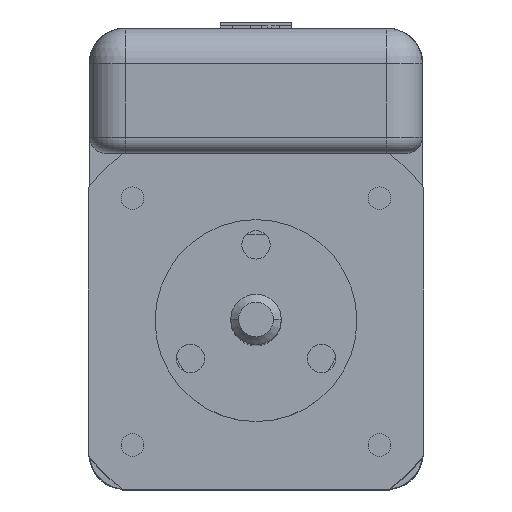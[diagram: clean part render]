
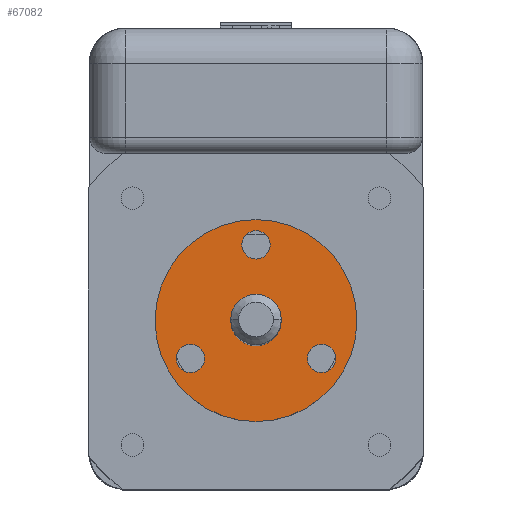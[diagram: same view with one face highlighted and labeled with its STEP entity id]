
A CAD part, top view. The second image highlights one B-rep face of the part: STEP entity #67082.
In plain terms, the highlighted planar face has unit normal (0, 0, 1).
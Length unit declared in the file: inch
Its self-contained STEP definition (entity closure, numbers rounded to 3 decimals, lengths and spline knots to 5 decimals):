
#1110 = FACE_BOUND ( 'NONE', #62919, .T. ) ;
#1352 = CIRCLE ( 'NONE', #17784, 0.07008 ) ;
#1794 = EDGE_CURVE ( 'NONE', #31824, #5520, #9798, .T. ) ;
#2488 = EDGE_LOOP ( 'NONE', ( #3993, #14976 ) ) ;
#3544 = DIRECTION ( 'NONE',  ( 0., 0., 1. ) ) ;
#3993 = ORIENTED_EDGE ( 'NONE', *, *, #8123, .F. ) ;
#4648 = CARTESIAN_POINT ( 'NONE',  ( 0.07008, -0.375, 0. ) ) ;
#5037 = CARTESIAN_POINT ( 'NONE',  ( 0., 0., 0. ) ) ;
#5520 = VERTEX_POINT ( 'NONE', #51846 ) ;
#6529 = CARTESIAN_POINT ( 'NONE',  ( -0.125, 0., 0. ) ) ;
#8123 = EDGE_CURVE ( 'NONE', #65141, #46532, #62089, .T. ) ;
#8506 = EDGE_CURVE ( 'NONE', #23450, #40789, #40393, .T. ) ;
#9104 = EDGE_CURVE ( 'NONE', #64932, #36331, #28364, .T. ) ;
#9798 = CIRCLE ( 'NONE', #13082, 0.07008 ) ;
#9941 = CARTESIAN_POINT ( 'NONE',  ( 0.5, 0., 0. ) ) ;
#10015 = DIRECTION ( 'NONE',  ( 0., 0., 1. ) ) ;
#10034 = DIRECTION ( 'NONE',  ( 0., 0., 1. ) ) ;
#12086 = FACE_OUTER_BOUND ( 'NONE', #65097, .T. ) ;
#12111 = EDGE_CURVE ( 'NONE', #36331, #64932, #1352, .T. ) ;
#13082 = AXIS2_PLACEMENT_3D ( 'NONE', #25169, #10034, #46835 ) ;
#14976 = ORIENTED_EDGE ( 'NONE', *, *, #48889, .F. ) ;
#16132 = ORIENTED_EDGE ( 'NONE', *, *, #31386, .F. ) ;
#16151 = CIRCLE ( 'NONE', #54531, 0.07008 ) ;
#16918 = CARTESIAN_POINT ( 'NONE',  ( 0., 0., 0. ) ) ;
#17187 = CIRCLE ( 'NONE', #48990, 0.125 ) ;
#17784 = AXIS2_PLACEMENT_3D ( 'NONE', #35715, #55978, #19893 ) ;
#18675 = DIRECTION ( 'NONE',  ( 1., 0., 0. ) ) ;
#18953 = DIRECTION ( 'NONE',  ( 0., 0., 1. ) ) ;
#19893 = DIRECTION ( 'NONE',  ( 1., 0., 0. ) ) ;
#20208 = DIRECTION ( 'NONE',  ( 0., 0., 1. ) ) ;
#21618 = EDGE_LOOP ( 'NONE', ( #24986, #40990 ) ) ;
#23450 = VERTEX_POINT ( 'NONE', #47645 ) ;
#24103 = DIRECTION ( 'NONE',  ( 1., 0., 0. ) ) ;
#24986 = ORIENTED_EDGE ( 'NONE', *, *, #1794, .F. ) ;
#25023 = CARTESIAN_POINT ( 'NONE',  ( -0.32476, 0.1875, 0. ) ) ;
#25169 = CARTESIAN_POINT ( 'NONE',  ( 0.32476, 0.1875, 0. ) ) ;
#25809 = AXIS2_PLACEMENT_3D ( 'NONE', #5037, #42838, #58281 ) ;
#26683 = CARTESIAN_POINT ( 'NONE',  ( 0., 0., 0. ) ) ;
#28121 = AXIS2_PLACEMENT_3D ( 'NONE', #34427, #18953, #24103 ) ;
#28364 = CIRCLE ( 'NONE', #55784, 0.07008 ) ;
#29039 = EDGE_CURVE ( 'NONE', #55232, #32964, #40089, .T. ) ;
#29457 = DIRECTION ( 'NONE',  ( 0., 0., 1. ) ) ;
#31386 = EDGE_CURVE ( 'NONE', #40789, #23450, #16151, .T. ) ;
#31711 = CARTESIAN_POINT ( 'NONE',  ( 0., -0.375, 0. ) ) ;
#31824 = VERTEX_POINT ( 'NONE', #55724 ) ;
#32564 = CIRCLE ( 'NONE', #51168, 0.5 ) ;
#32740 = DIRECTION ( 'NONE',  ( -1., 0., 0. ) ) ;
#32964 = VERTEX_POINT ( 'NONE', #9941 ) ;
#33511 = CARTESIAN_POINT ( 'NONE',  ( -0.25468, 0.1875, 0. ) ) ;
#34427 = CARTESIAN_POINT ( 'NONE',  ( 0., 0., 0. ) ) ;
#34606 = CARTESIAN_POINT ( 'NONE',  ( -0.32476, 0.1875, 0. ) ) ;
#35715 = CARTESIAN_POINT ( 'NONE',  ( 0., -0.375, 0. ) ) ;
#36331 = VERTEX_POINT ( 'NONE', #4648 ) ;
#36618 = EDGE_CURVE ( 'NONE', #5520, #31824, #66248, .T. ) ;
#38023 = CARTESIAN_POINT ( 'NONE',  ( 0.125, 0., 0. ) ) ;
#38413 = CARTESIAN_POINT ( 'NONE',  ( 0., 0., 0. ) ) ;
#38471 = ORIENTED_EDGE ( 'NONE', *, *, #8506, .F. ) ;
#38549 = PLANE ( 'NONE',  #60563 ) ;
#40089 = CIRCLE ( 'NONE', #25809, 0.5 ) ;
#40393 = CIRCLE ( 'NONE', #56810, 0.07008 ) ;
#40624 = DIRECTION ( 'NONE',  ( 1., 0., 0. ) ) ;
#40789 = VERTEX_POINT ( 'NONE', #33511 ) ;
#40841 = DIRECTION ( 'NONE',  ( 1., 0., 0. ) ) ;
#40990 = ORIENTED_EDGE ( 'NONE', *, *, #36618, .F. ) ;
#41342 = ORIENTED_EDGE ( 'NONE', *, *, #9104, .F. ) ;
#42160 = DIRECTION ( 'NONE',  ( 0., 0., 1. ) ) ;
#42838 = DIRECTION ( 'NONE',  ( 0., 0., 1. ) ) ;
#43053 = FACE_BOUND ( 'NONE', #43434, .T. ) ;
#43434 = EDGE_LOOP ( 'NONE', ( #55088, #41342 ) ) ;
#43805 = ORIENTED_EDGE ( 'NONE', *, *, #29039, .T. ) ;
#44351 = ORIENTED_EDGE ( 'NONE', *, *, #48663, .T. ) ;
#46532 = VERTEX_POINT ( 'NONE', #6529 ) ;
#46835 = DIRECTION ( 'NONE',  ( 1., 0., 0. ) ) ;
#47645 = CARTESIAN_POINT ( 'NONE',  ( -0.39484, 0.1875, 0. ) ) ;
#48663 = EDGE_CURVE ( 'NONE', #32964, #55232, #32564, .T. ) ;
#48889 = EDGE_CURVE ( 'NONE', #46532, #65141, #17187, .T. ) ;
#48990 = AXIS2_PLACEMENT_3D ( 'NONE', #26683, #42160, #67567 ) ;
#51168 = AXIS2_PLACEMENT_3D ( 'NONE', #38413, #59366, #54196 ) ;
#51327 = DIRECTION ( 'NONE',  ( 1., 0., 0. ) ) ;
#51790 = CARTESIAN_POINT ( 'NONE',  ( -0.07008, -0.375, 0. ) ) ;
#51846 = CARTESIAN_POINT ( 'NONE',  ( 0.25468, 0.1875, 0. ) ) ;
#54196 = DIRECTION ( 'NONE',  ( 1., 0., 0. ) ) ;
#54531 = AXIS2_PLACEMENT_3D ( 'NONE', #34606, #29457, #51327 ) ;
#55088 = ORIENTED_EDGE ( 'NONE', *, *, #12111, .F. ) ;
#55232 = VERTEX_POINT ( 'NONE', #59335 ) ;
#55724 = CARTESIAN_POINT ( 'NONE',  ( 0.39484, 0.1875, 0. ) ) ;
#55784 = AXIS2_PLACEMENT_3D ( 'NONE', #31711, #10015, #40624 ) ;
#55978 = DIRECTION ( 'NONE',  ( 0., 0., 1. ) ) ;
#56810 = AXIS2_PLACEMENT_3D ( 'NONE', #25023, #20208, #40841 ) ;
#58281 = DIRECTION ( 'NONE',  ( 1., 0., 0. ) ) ;
#58835 = DIRECTION ( 'NONE',  ( 0., 0., -1. ) ) ;
#59335 = CARTESIAN_POINT ( 'NONE',  ( -0.5, 0., 0. ) ) ;
#59366 = DIRECTION ( 'NONE',  ( 0., 0., 1. ) ) ;
#60563 = AXIS2_PLACEMENT_3D ( 'NONE', #16918, #58835, #32740 ) ;
#62089 = CIRCLE ( 'NONE', #28121, 0.125 ) ;
#62919 = EDGE_LOOP ( 'NONE', ( #16132, #38471 ) ) ;
#63979 = FACE_BOUND ( 'NONE', #2488, .T. ) ;
#64640 = FACE_BOUND ( 'NONE', #21618, .T. ) ;
#64932 = VERTEX_POINT ( 'NONE', #51790 ) ;
#65097 = EDGE_LOOP ( 'NONE', ( #44351, #43805 ) ) ;
#65121 = AXIS2_PLACEMENT_3D ( 'NONE', #65735, #3544, #18675 ) ;
#65141 = VERTEX_POINT ( 'NONE', #38023 ) ;
#65735 = CARTESIAN_POINT ( 'NONE',  ( 0.32476, 0.1875, 0. ) ) ;
#66248 = CIRCLE ( 'NONE', #65121, 0.07008 ) ;
#67082 = ADVANCED_FACE ( 'NONE', ( #1110, #64640, #43053, #63979, #12086 ), #38549, .F. ) ;
#67567 = DIRECTION ( 'NONE',  ( 1., 0., 0. ) ) ;
